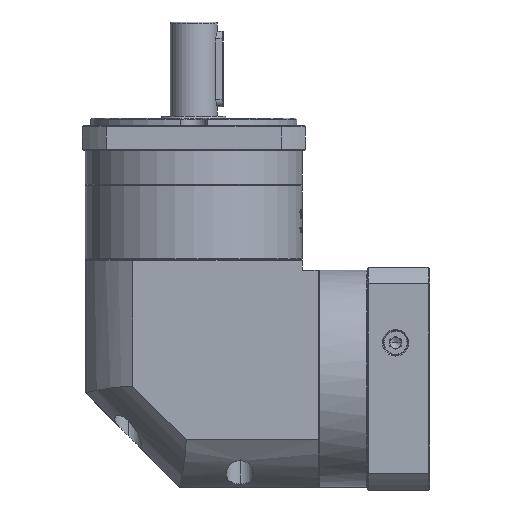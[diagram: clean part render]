
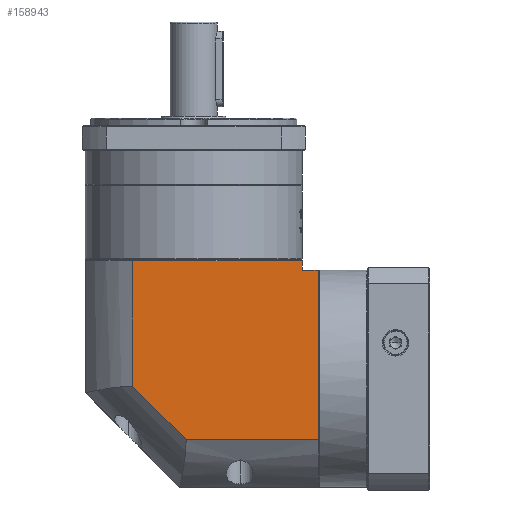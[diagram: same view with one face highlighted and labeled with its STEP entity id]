
A CAD part, left-side view. The second image highlights one B-rep face of the part: STEP entity #158943.
In plain terms, the highlighted planar face has unit normal (-1, 0, 0).
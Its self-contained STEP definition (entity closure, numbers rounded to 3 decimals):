
#942 = EDGE_CURVE ( 'NONE', #35042, #75230, #51630, .T. ) ;
#1580 = CARTESIAN_POINT ( 'NONE',  ( 117.82, 19.79, 151.751 ) ) ;
#13399 = CARTESIAN_POINT ( 'NONE',  ( 117.82, 89.751, 50.351 ) ) ;
#23755 = CARTESIAN_POINT ( 'NONE',  ( 117.82, 118.089, 151.751 ) ) ;
#29198 = CARTESIAN_POINT ( 'NONE',  ( 117.82, 28.19, 25.251 ) ) ;
#31565 = VERTEX_POINT ( 'NONE', #138550 ) ;
#32565 = VERTEX_POINT ( 'NONE', #61266 ) ;
#35042 = VERTEX_POINT ( 'NONE', #165046 ) ;
#36569 = VERTEX_POINT ( 'NONE', #161625 ) ;
#37320 = LINE ( 'NONE', #29198, #100841 ) ;
#39158 = ORIENTED_EDGE ( 'NONE', *, *, #40230, .F. ) ;
#40230 = EDGE_CURVE ( 'NONE', #91160, #35042, #152212, .T. ) ;
#41683 = LINE ( 'NONE', #23755, #43881 ) ;
#43881 = VECTOR ( 'NONE', #154432, 1000. ) ;
#44180 = VECTOR ( 'NONE', #105116, 1000. ) ;
#51630 = LINE ( 'NONE', #150127, #63928 ) ;
#61266 = CARTESIAN_POINT ( 'NONE',  ( 117.82, 118.089, 78.689 ) ) ;
#62227 = EDGE_CURVE ( 'NONE', #118543, #31565, #37320, .T. ) ;
#63928 = VECTOR ( 'NONE', #138552, 1000. ) ;
#72532 = PLANE ( 'NONE',  #140889 ) ;
#75230 = VERTEX_POINT ( 'NONE', #139709 ) ;
#75831 = DIRECTION ( 'NONE',  ( 0., 1., 0. ) ) ;
#76400 = CARTESIAN_POINT ( 'NONE',  ( 117.82, 28.19, 140.251 ) ) ;
#78012 = ORIENTED_EDGE ( 'NONE', *, *, #62227, .T. ) ;
#80767 = DIRECTION ( 'NONE',  ( 0., 0., 1. ) ) ;
#83385 = ORIENTED_EDGE ( 'NONE', *, *, #145859, .F. ) ;
#90944 = CARTESIAN_POINT ( 'NONE',  ( 117.82, 143.19, 145.251 ) ) ;
#91160 = VERTEX_POINT ( 'NONE', #168451 ) ;
#94270 = EDGE_CURVE ( 'NONE', #75230, #32565, #144561, .T. ) ;
#100841 = VECTOR ( 'NONE', #80767, 1000. ) ;
#102200 = FACE_OUTER_BOUND ( 'NONE', #166394, .T. ) ;
#102887 = CARTESIAN_POINT ( 'NONE',  ( 117.82, 28.19, 140.251 ) ) ;
#105030 = VECTOR ( 'NONE', #146561, 1000. ) ;
#105116 = DIRECTION ( 'NONE',  ( 0., 0.707, 0.707 ) ) ;
#107201 = ORIENTED_EDGE ( 'NONE', *, *, #94270, .F. ) ;
#112105 = DIRECTION ( 'NONE',  ( 1., 0., 0. ) ) ;
#118543 = VERTEX_POINT ( 'NONE', #102887 ) ;
#120577 = VECTOR ( 'NONE', #75831, 1000. ) ;
#124745 = CARTESIAN_POINT ( 'NONE',  ( 117.82, 143.19, 151.751 ) ) ;
#129827 = DIRECTION ( 'NONE',  ( 0., -1., 0. ) ) ;
#132307 = EDGE_CURVE ( 'NONE', #36569, #31565, #139578, .T. ) ;
#133148 = ORIENTED_EDGE ( 'NONE', *, *, #132307, .F. ) ;
#137636 = VECTOR ( 'NONE', #129827, 1000. ) ;
#137858 = DIRECTION ( 'NONE',  ( 0., 1., 0. ) ) ;
#138550 = CARTESIAN_POINT ( 'NONE',  ( 117.82, 28.19, 145.251 ) ) ;
#138552 = DIRECTION ( 'NONE',  ( 0., 1., 0. ) ) ;
#139578 = LINE ( 'NONE', #90944, #137636 ) ;
#139709 = CARTESIAN_POINT ( 'NONE',  ( 117.82, 89.751, 50.351 ) ) ;
#140889 = AXIS2_PLACEMENT_3D ( 'NONE', #124745, #112105, #137858 ) ;
#143950 = EDGE_CURVE ( 'NONE', #91160, #118543, #155489, .T. ) ;
#144561 = LINE ( 'NONE', #13399, #44180 ) ;
#145859 = EDGE_CURVE ( 'NONE', #32565, #36569, #41683, .T. ) ;
#146561 = DIRECTION ( 'NONE',  ( 0., 0., -1. ) ) ;
#150127 = CARTESIAN_POINT ( 'NONE',  ( 117.82, 143.19, 50.351 ) ) ;
#152212 = LINE ( 'NONE', #1580, #105030 ) ;
#152659 = ORIENTED_EDGE ( 'NONE', *, *, #143950, .T. ) ;
#154432 = DIRECTION ( 'NONE',  ( 0., 0., 1. ) ) ;
#155489 = LINE ( 'NONE', #76400, #120577 ) ;
#158943 = ADVANCED_FACE ( 'NONE', ( #102200 ), #72532, .F. ) ;
#161625 = CARTESIAN_POINT ( 'NONE',  ( 117.82, 118.089, 145.251 ) ) ;
#165046 = CARTESIAN_POINT ( 'NONE',  ( 117.82, 19.79, 50.351 ) ) ;
#165346 = ORIENTED_EDGE ( 'NONE', *, *, #942, .F. ) ;
#166394 = EDGE_LOOP ( 'NONE', ( #83385, #107201, #165346, #39158, #152659, #78012, #133148 ) ) ;
#168451 = CARTESIAN_POINT ( 'NONE',  ( 117.82, 19.79, 140.251 ) ) ;
